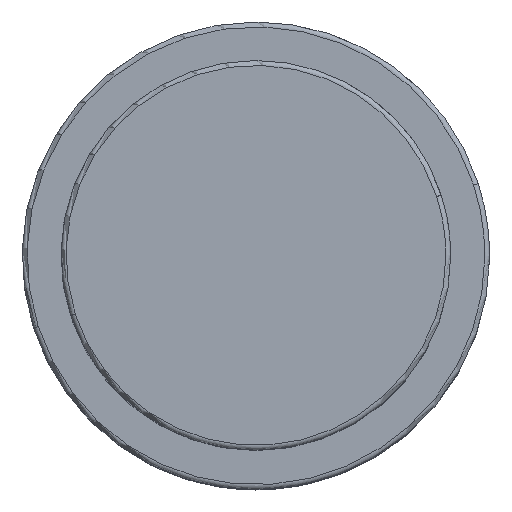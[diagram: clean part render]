
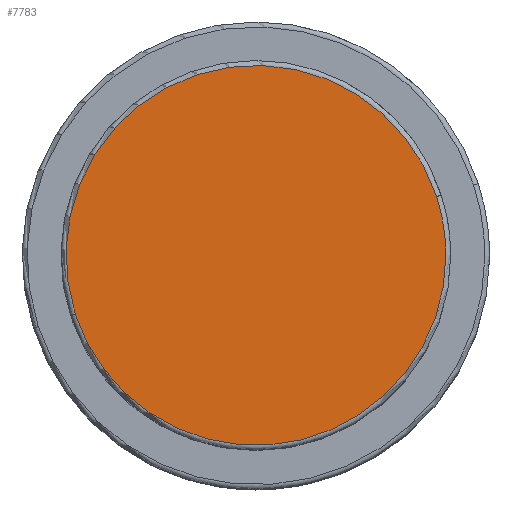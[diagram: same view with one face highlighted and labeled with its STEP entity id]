
A CAD part, top view. The second image highlights one B-rep face of the part: STEP entity #7783.
In plain terms, the highlighted planar face has unit normal (0, 0, 1).
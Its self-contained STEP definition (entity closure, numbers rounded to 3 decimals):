
#7749=CARTESIAN_POINT('',(19.5,0.0,38.5));
#7750=VERTEX_POINT('',#7749);
#7751=CARTESIAN_POINT('',(18.546,6.026,38.5));
#7752=VERTEX_POINT('',#7751);
#7753=CARTESIAN_POINT('',(0.0,0.0,38.5));
#7754=DIRECTION('',(0.0,0.0,1.0));
#7755=DIRECTION('',(1.0,0.0,0.0));
#7756=AXIS2_PLACEMENT_3D('',#7753,#7754,#7755);
#7757=CIRCLE('',#7756,19.5);
#7758=EDGE_CURVE('no 4183',#7750,#7752,#7757,.T.);
#7759=ORIENTED_EDGE('',*,*,#7758,.T.);
#7760=CARTESIAN_POINT('',(-18.546,-6.026,38.5));
#7761=VERTEX_POINT('',#7760);
#7762=CARTESIAN_POINT('',(0.0,0.0,38.5));
#7763=DIRECTION('',(0.0,0.0,1.0));
#7764=DIRECTION('',(1.0,0.0,0.0));
#7765=AXIS2_PLACEMENT_3D('',#7762,#7763,#7764);
#7766=CIRCLE('',#7765,19.5);
#7767=EDGE_CURVE('no 4189',#7752,#7761,#7766,.T.);
#7768=ORIENTED_EDGE('',*,*,#7767,.T.);
#7769=CARTESIAN_POINT('',(0.0,0.0,38.5));
#7770=DIRECTION('',(0.0,0.0,1.0));
#7771=DIRECTION('',(1.0,0.0,0.0));
#7772=AXIS2_PLACEMENT_3D('',#7769,#7770,#7771);
#7773=CIRCLE('',#7772,19.5);
#7774=EDGE_CURVE('no 4193',#7761,#7750,#7773,.T.);
#7775=ORIENTED_EDGE('',*,*,#7774,.T.);
#7776=EDGE_LOOP('',(#7759,#7768,#7775));
#7777=FACE_OUTER_BOUND('',#7776,.T.);
#7778=CARTESIAN_POINT('',(0.0,0.0,38.5));
#7779=DIRECTION('',(0.0,0.0,1.0));
#7780=DIRECTION('',(1.0,0.0,0.0));
#7781=AXIS2_PLACEMENT_3D('',#7778,#7779,#7780);
#7782=PLANE('',#7781);
#7783=ADVANCED_FACE('no 4174',(#7777),#7782,.T.);
